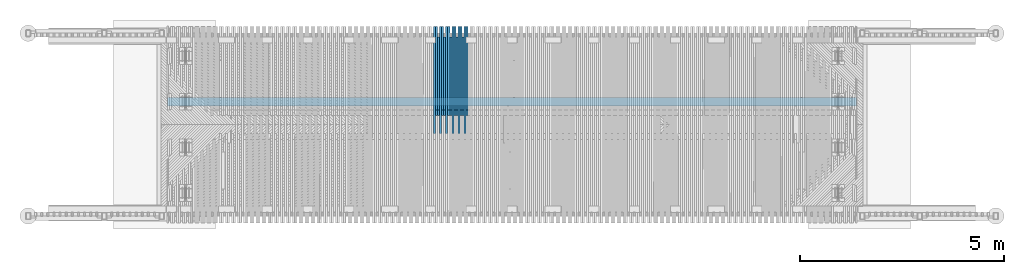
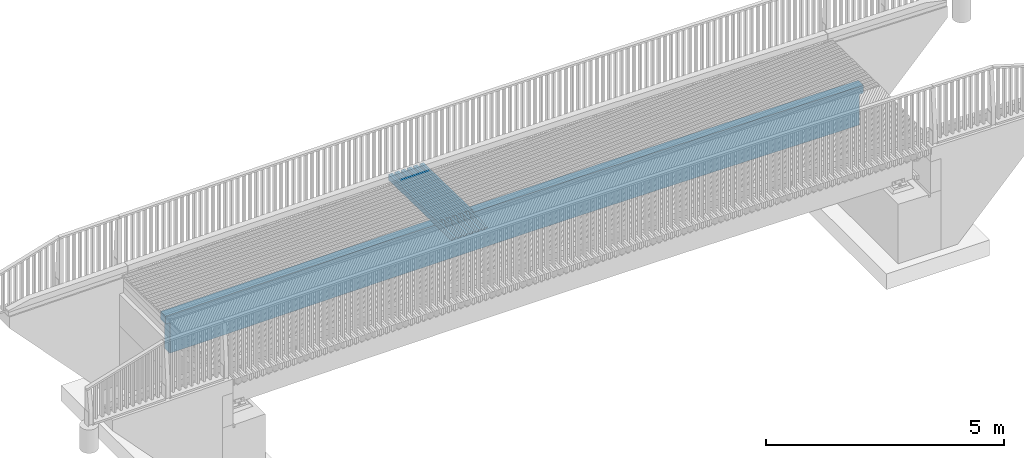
# One storey, part 27 of 47: 18 beams.
"""IFC2X3 building model written with IfcOpenShell, lengths in millimetres."""

from ifc_helpers import new_model, si_unit, frame, origin_with_axes, place, context, subcontext, project, spatial, faceted_brep, material, type_object, element, save


model = new_model("IFC2X3")

# Units and contexts
model_context = context("Model", 3, precision=1e-05, world=origin_with_axes())
body_context = subcontext(model_context, "Body", "Model", "MODEL_VIEW")
ifc_project = project(units=[si_unit("LENGTHUNIT", "METRE", prefix="MILLI"), si_unit("AREAUNIT", "SQUARE_METRE"), si_unit("VOLUMEUNIT", "CUBIC_METRE"), si_unit("MASSUNIT", "GRAM", prefix="KILO"), si_unit("TIMEUNIT", "SECOND"), si_unit("PLANEANGLEUNIT", "RADIAN"), si_unit("SOLIDANGLEUNIT", "STERADIAN"), si_unit("THERMODYNAMICTEMPERATUREUNIT", "DEGREE_CELSIUS"), si_unit("LUMINOUSINTENSITYUNIT", "LUMEN")], contexts=[model_context])

# Site, building, storey
site_placement = place(None, origin_with_axes())
site = spatial("IfcSite", under=ifc_project, at=site_placement, Name="Undefined", CompositionType="ELEMENT")
building_placement = place(site_placement, origin_with_axes())
building = spatial("IfcBuilding", under=site, at=building_placement, Name="Undefined", CompositionType="ELEMENT")
storey_placement = place(building_placement, origin_with_axes())
storey = spatial("IfcBuildingStorey", under=building, at=storey_placement, Name="Undefined", CompositionType="ELEMENT", Elevation=0.0)

# Beams
ifc_material = material(Name="TIMBER/Timber_Undefined")
beam_type_1 = type_object("IfcBeamType", Name="150*50", PredefinedType="NOTDEFINED")
beam_1_placement = place(storey_placement, frame((6149.62409713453, 64771.4438078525, 3085.1448730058), z_axis=(-0.0030706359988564, 0.01999600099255, 0.999795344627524), x_axis=(-6.14129999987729e-05, -0.999800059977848, 0.019995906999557)))
element("IfcBeam", 1, at=beam_1_placement, inside=storey, type_object=beam_type_1, material=ifc_material, Name="BEAM", ObjectType="150*50", context=body_context, shape_type="Brep", body=[
    faceted_brep([(6.18456397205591e-09, -24.9999999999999, -75.0000000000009), (-6.1918399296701e-09, -24.9999999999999, 74.9999999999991), (-6.19911588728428e-09, 25.0, 75.0), (6.18456397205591e-09, 24.9999999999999, -75.0), (2186.42645864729, 25.0, -75.0), (2186.42645915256, -25.0000000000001, -75.0), (2047.96936034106, -25.0000000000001, 75.0), (2047.96935975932, 25.0, 75.0)], [[[0, 1, 2, 3]], [[0, 3, 4, 5]], [[1, 0, 5, 6]], [[2, 1, 6, 7]], [[3, 2, 7, 4]], [[6, 5, 4, 7]]]),
])
beam_2_placement = place(storey_placement, frame((6099.58490971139, 64771.443807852, 3084.99030618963), z_axis=(-0.00323675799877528, 0.0199960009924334, 0.999794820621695), x_axis=(-6.47350000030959e-05, -0.999800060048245, 0.0199958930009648)))
element("IfcBeam", 2, at=beam_2_placement, inside=storey, type_object=beam_type_1, material=ifc_material, Name="BEAM", ObjectType="150*50", context=body_context, shape_type="Brep", body=[
    faceted_brep([(6.18456397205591e-09, -24.9999999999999, -75.0000000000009), (6.18456397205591e-09, 24.9999999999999, -75.0), (2633.00494983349, 25.0000000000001, -75.0000000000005), (2633.00495050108, -24.9999999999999, -75.0000000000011), (-6.1918399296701e-09, -24.9999999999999, 74.9999999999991), (-6.19911588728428e-09, 25.0, 75.0), (2408.42506497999, 24.9999999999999, 75.0), (2768.5924870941, 25.0, 60.5875375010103), (2768.59248707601, -25.0, 60.5875366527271), (2408.4250638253, -25.0, 74.9999999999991)], [[[0, 1, 2, 3]], [[0, 4, 5, 1]], [[2, 1, 5, 6, 7]], [[3, 2, 7, 8]], [[4, 0, 3, 8, 9]], [[5, 4, 9, 6]], [[8, 7, 6, 9]]]),
])
beam_3_placement = place(storey_placement, frame((6299.65220868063, 64771.4438078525, 3085.58735179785), z_axis=(-0.00282145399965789, 0.0199960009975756, 0.999796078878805), x_axis=(-5.64289999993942e-05, -0.999800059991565, 0.0199959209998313)))
element("IfcBeam", 3, at=beam_3_placement, inside=storey, type_object=beam_type_1, material=ifc_material, Name="BEAM", ObjectType="150*50", context=body_context, shape_type="Brep", body=[
    faceted_brep([(6.18456397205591e-09, -24.9999999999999, -75.0000000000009), (-6.1918399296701e-09, -24.9999999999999, 74.9999999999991), (-6.19911588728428e-09, 25.0, 75.0), (6.18456397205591e-09, 24.9999999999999, -75.0), (2186.42645864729, 25.0, -75.0), (2186.42645915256, -25.0000000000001, -75.0), (2047.96936034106, -25.0000000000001, 75.0), (2047.96935975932, 25.0, 75.0)], [[[0, 1, 2, 3]], [[0, 3, 4, 5]], [[1, 0, 5, 6]], [[2, 1, 6, 7]], [[3, 2, 7, 4]], [[6, 5, 4, 7]]]),
])
beam_4_placement = place(storey_placement, frame((6199.61803930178, 64513.4953923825, 3090.45546512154), z_axis=(-0.002987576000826, 0.019996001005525, 0.999795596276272), x_axis=(-5.97510000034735e-05, -0.999800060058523, 0.0199959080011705)))
element("IfcBeam", 4, at=beam_4_placement, inside=storey, type_object=beam_type_1, material=ifc_material, Name="BEAM", ObjectType="150*50", context=body_context, shape_type="Brep", body=[
    faceted_brep([(6.18456397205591e-09, -24.9999999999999, -75.0000000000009), (-6.1918399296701e-09, -24.9999999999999, 74.9999999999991), (-6.19911588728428e-09, 25.0, 75.0), (6.18456397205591e-09, 24.9999999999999, -75.0), (1928.42646506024, 25.0, -75.0), (1928.4264649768, -24.9999999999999, -75.0), (1789.96936577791, -24.9999999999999, 75.0), (1789.96936586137, 25.0, 75.0000000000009)], [[[0, 1, 2, 3]], [[0, 3, 4, 5]], [[1, 0, 5, 6]], [[2, 1, 6, 7]], [[3, 2, 7, 4]], [[6, 5, 4, 7]]]),
])
beam_5_placement = place(storey_placement, frame((6249.61298428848, 64771.443807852, 3085.445256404), z_axis=(-0.002987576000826, 0.019996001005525, 0.999795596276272), x_axis=(-5.97510000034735e-05, -0.999800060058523, 0.0199959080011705)))
element("IfcBeam", 5, at=beam_5_placement, inside=storey, type_object=beam_type_1, material=ifc_material, Name="BEAM", ObjectType="150*50", context=body_context, shape_type="Brep", body=[
    faceted_brep([(6.18456397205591e-09, -24.9999999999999, -75.0000000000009), (6.18456397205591e-09, 24.9999999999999, -75.0), (2633.00494983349, 25.0000000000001, -75.0000000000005), (2633.00495050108, -24.9999999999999, -75.0000000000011), (-6.1918399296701e-09, -24.9999999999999, 74.9999999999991), (-6.19911588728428e-09, 25.0, 75.0), (2408.42506497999, 24.9999999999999, 75.0), (2768.5924870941, 25.0, 60.5875375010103), (2768.59248707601, -25.0, 60.5875366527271), (2408.4250638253, -25.0, 74.9999999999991)], [[[0, 1, 2, 3]], [[0, 4, 5, 1]], [[2, 1, 5, 6, 7]], [[3, 2, 7, 8]], [[4, 0, 3, 8, 9]], [[5, 4, 9, 6]], [[8, 7, 6, 9]]]),
])
beam_6_placement = place(storey_placement, frame((6449.68042584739, 64771.4438078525, 3085.99243861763), z_axis=(-0.00257227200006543, 0.0199960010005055, 0.9997967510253), x_axis=(-5.14459999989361e-05, -0.999800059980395, 0.019995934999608)))
element("IfcBeam", 6, at=beam_6_placement, inside=storey, type_object=beam_type_1, material=ifc_material, Name="BEAM", ObjectType="150*50", context=body_context, shape_type="Brep", body=[
    faceted_brep([(6.18456397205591e-09, -24.9999999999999, -75.0000000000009), (-6.1918399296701e-09, -24.9999999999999, 74.9999999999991), (-6.19911588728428e-09, 25.0, 75.0), (6.18456397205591e-09, 24.9999999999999, -75.0), (2186.42645864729, 25.0, -75.0), (2186.42645915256, -25.0000000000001, -75.0), (2047.96936034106, -25.0000000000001, 75.0), (2047.96935975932, 25.0, 75.0)], [[[0, 1, 2, 3]], [[0, 3, 4, 5]], [[1, 0, 5, 6]], [[2, 1, 6, 7]], [[3, 2, 7, 4]], [[6, 5, 4, 7]]]),
])
beam_7_placement = place(storey_placement, frame((6349.64747287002, 64513.4953923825, 3090.88548360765), z_axis=(-0.0027383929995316, 0.0199960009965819, 0.99979630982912), x_axis=(-5.47680000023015e-05, -0.999800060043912, 0.0199959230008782)))
element("IfcBeam", 7, at=beam_7_placement, inside=storey, type_object=beam_type_1, material=ifc_material, Name="BEAM", ObjectType="150*50", context=body_context, shape_type="Brep", body=[
    faceted_brep([(6.18456397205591e-09, -24.9999999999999, -75.0000000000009), (-6.1918399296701e-09, -24.9999999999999, 74.9999999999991), (-6.19911588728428e-09, 25.0, 75.0), (6.18456397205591e-09, 24.9999999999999, -75.0), (1928.42646506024, 25.0, -75.0), (1928.4264649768, -24.9999999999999, -75.0), (1789.96936577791, -24.9999999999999, 75.0), (1789.96936586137, 25.0, 75.0000000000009)], [[[0, 1, 2, 3]], [[0, 3, 4, 5]], [[1, 0, 5, 6]], [[2, 1, 6, 7]], [[3, 2, 7, 4]], [[6, 5, 4, 7]]]),
])
beam_8_placement = place(storey_placement, frame((6399.64116759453, 64771.443807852, 3085.86281465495), z_axis=(-0.0027383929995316, 0.0199960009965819, 0.99979630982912), x_axis=(-5.47680000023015e-05, -0.999800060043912, 0.0199959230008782)))
element("IfcBeam", 8, at=beam_8_placement, inside=storey, type_object=beam_type_1, material=ifc_material, Name="BEAM", ObjectType="150*50", context=body_context, shape_type="Brep", body=[
    faceted_brep([(6.18456397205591e-09, -24.9999999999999, -75.0000000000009), (6.18456397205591e-09, 24.9999999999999, -75.0), (2633.00494983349, 25.0000000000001, -75.0000000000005), (2633.00495050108, -24.9999999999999, -75.0000000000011), (-6.1918399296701e-09, -24.9999999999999, 74.9999999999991), (-6.19911588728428e-09, 25.0, 75.0), (2408.42506497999, 24.9999999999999, 75.0), (2768.5924870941, 25.0, 60.5875375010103), (2768.59248707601, -25.0, 60.5875366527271), (2408.4250638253, -25.0, 74.9999999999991)], [[[0, 1, 2, 3]], [[0, 4, 5, 1]], [[2, 1, 5, 6, 7]], [[3, 2, 7, 8]], [[4, 0, 3, 8, 9]], [[5, 4, 9, 6]], [[8, 7, 6, 9]]]),
])
beam_9_placement = place(storey_placement, frame((6599.70873931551, 64771.4438078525, 3086.36013343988), z_axis=(-0.00232309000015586, 0.0199960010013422, 0.999797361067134), x_axis=(-4.64619999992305e-05, -0.999800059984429, 0.0199959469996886)))
element("IfcBeam", 9, at=beam_9_placement, inside=storey, type_object=beam_type_1, material=ifc_material, Name="BEAM", ObjectType="150*50", context=body_context, shape_type="Brep", body=[
    faceted_brep([(6.18456397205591e-09, -24.9999999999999, -75.0000000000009), (-6.1918399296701e-09, -24.9999999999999, 74.9999999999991), (-6.19911588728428e-09, 25.0, 75.0), (6.18456397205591e-09, 24.9999999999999, -75.0), (2186.42645864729, 25.0, -75.0), (2186.42645915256, -25.0000000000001, -75.0), (2047.96936034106, -25.0000000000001, 75.0), (2047.96935975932, 25.0, 75.0)], [[[0, 1, 2, 3]], [[0, 3, 4, 5]], [[1, 0, 5, 6]], [[2, 1, 6, 7]], [[3, 2, 7, 4]], [[6, 5, 4, 7]]]),
])
beam_10_placement = place(storey_placement, frame((6499.67700895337, 64513.4953923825, 3091.2781097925), z_axis=(-0.00248921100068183, 0.0199960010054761, 0.999796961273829), x_axis=(-4.97840000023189e-05, -0.999800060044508, 0.0199959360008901)))
element("IfcBeam", 10, at=beam_10_placement, inside=storey, type_object=beam_type_1, material=ifc_material, Name="BEAM", ObjectType="150*50", context=body_context, shape_type="Brep", body=[
    faceted_brep([(6.18456397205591e-09, -24.9999999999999, -75.0000000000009), (-6.1918399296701e-09, -24.9999999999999, 74.9999999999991), (-6.19911588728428e-09, 25.0, 75.0), (6.18456397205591e-09, 24.9999999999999, -75.0), (1928.42646506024, 25.0, -75.0), (1928.4264649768, -24.9999999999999, -75.0), (1789.96936577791, -24.9999999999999, 75.0), (1789.96936586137, 25.0, 75.0000000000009)], [[[0, 1, 2, 3]], [[0, 3, 4, 5]], [[1, 0, 5, 6]], [[2, 1, 6, 7]], [[3, 2, 7, 4]], [[6, 5, 4, 7]]]),
])
beam_11_placement = place(storey_placement, frame((6549.66945031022, 64771.443807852, 3086.2429809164), z_axis=(-0.00248921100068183, 0.0199960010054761, 0.999796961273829), x_axis=(-4.97840000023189e-05, -0.999800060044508, 0.0199959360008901)))
element("IfcBeam", 11, at=beam_11_placement, inside=storey, type_object=beam_type_1, material=ifc_material, Name="BEAM", ObjectType="150*50", context=body_context, shape_type="Brep", body=[
    faceted_brep([(6.18456397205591e-09, -24.9999999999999, -75.0000000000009), (6.18456397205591e-09, 24.9999999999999, -75.0), (2633.00494983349, 25.0000000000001, -75.0000000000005), (2633.00495050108, -24.9999999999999, -75.0000000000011), (-6.1918399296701e-09, -24.9999999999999, 74.9999999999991), (-6.19911588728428e-09, 25.0, 75.0), (2408.42506497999, 24.9999999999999, 75.0), (2768.5924870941, 25.0, 60.5875375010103), (2768.59248707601, -25.0, 60.5875366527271), (2408.4250638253, -25.0, 74.9999999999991)], [[[0, 1, 2, 3]], [[0, 4, 5, 1]], [[2, 1, 5, 6, 7]], [[3, 2, 7, 8]], [[4, 0, 3, 8, 9]], [[5, 4, 9, 6]], [[8, 7, 6, 9]]]),
])
beam_12_placement = place(storey_placement, frame((6749.73713976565, 64771.4438078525, 3086.69043624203), z_axis=(-0.00207390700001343, 0.0199960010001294, 0.999797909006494), x_axis=(-4.1477999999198e-05, -0.99980005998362, 0.0199959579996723)))
element("IfcBeam", 12, at=beam_12_placement, inside=storey, type_object=beam_type_1, material=ifc_material, Name="BEAM", ObjectType="150*50", context=body_context, shape_type="Brep", body=[
    faceted_brep([(6.18456397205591e-09, -24.9999999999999, -75.0000000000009), (-6.1918399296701e-09, -24.9999999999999, 74.9999999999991), (-6.19911588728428e-09, 25.0, 75.0), (6.18456397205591e-09, 24.9999999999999, -75.0), (2186.42645864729, 25.0, -75.0), (2186.42645915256, -25.0000000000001, -75.0), (2047.96936034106, -25.0000000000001, 75.0), (2047.96935975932, 25.0, 75.0)], [[[0, 1, 2, 3]], [[0, 3, 4, 5]], [[1, 0, 5, 6]], [[2, 1, 6, 7]], [[3, 2, 7, 4]], [[6, 5, 4, 7]]]),
])
beam_13_placement = place(storey_placement, frame((6649.70663823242, 64513.4953923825, 3091.63334365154), z_axis=(-0.00224002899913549, 0.019996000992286, 0.999797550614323), x_axis=(-4.48000000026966e-05, -0.999800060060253, 0.019995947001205)))
element("IfcBeam", 13, at=beam_13_placement, inside=storey, type_object=beam_type_1, material=ifc_material, Name="BEAM", ObjectType="150*50", context=body_context, shape_type="Brep", body=[
    faceted_brep([(6.18456397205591e-09, -24.9999999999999, -75.0000000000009), (-6.1918399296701e-09, -24.9999999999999, 74.9999999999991), (-6.19911588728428e-09, 25.0, 75.0), (6.18456397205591e-09, 24.9999999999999, -75.0), (1928.42646506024, 25.0, -75.0), (1928.4264649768, -24.9999999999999, -75.0), (1789.96936577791, -24.9999999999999, 75.0), (1789.96936586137, 25.0, 75.0000000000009)], [[[0, 1, 2, 3]], [[0, 3, 4, 5]], [[1, 0, 5, 6]], [[2, 1, 6, 7]], [[3, 2, 7, 4]], [[6, 5, 4, 7]]]),
])
beam_14_placement = place(storey_placement, frame((6699.69782311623, 64771.443807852, 3086.58575516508), z_axis=(-0.00224002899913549, 0.019996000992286, 0.999797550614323), x_axis=(-4.48000000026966e-05, -0.999800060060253, 0.019995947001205)))
element("IfcBeam", 14, at=beam_14_placement, inside=storey, type_object=beam_type_1, material=ifc_material, Name="BEAM", ObjectType="150*50", context=body_context, shape_type="Brep", body=[
    faceted_brep([(6.18456397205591e-09, -24.9999999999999, -75.0000000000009), (6.18456397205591e-09, 24.9999999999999, -75.0), (2633.00494983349, 25.0000000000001, -75.0000000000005), (2633.00495050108, -24.9999999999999, -75.0000000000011), (-6.1918399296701e-09, -24.9999999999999, 74.9999999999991), (-6.19911588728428e-09, 25.0, 75.0), (2408.42506497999, 24.9999999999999, 75.0), (2768.5924870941, 25.0, 60.5875375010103), (2768.59248707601, -25.0, 60.5875366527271), (2408.4250638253, -25.0, 74.9999999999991)], [[[0, 1, 2, 3]], [[0, 4, 5, 1]], [[2, 1, 5, 6, 7]], [[3, 2, 7, 8]], [[4, 0, 3, 8, 9]], [[5, 4, 9, 6]], [[8, 7, 6, 9]]]),
])
beam_15_placement = place(storey_placement, frame((6899.76561787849, 64771.4438078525, 3086.98334700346), z_axis=(-0.00182472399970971, 0.0199960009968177, 0.99979839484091), x_axis=(-3.64949999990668e-05, -0.999800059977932, 0.0199959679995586)))
element("IfcBeam", 15, at=beam_15_placement, inside=storey, type_object=beam_type_1, material=ifc_material, Name="BEAM", ObjectType="150*50", context=body_context, shape_type="Brep", body=[
    faceted_brep([(6.18456397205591e-09, -24.9999999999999, -75.0000000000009), (-6.1918399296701e-09, -24.9999999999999, 74.9999999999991), (-6.19911588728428e-09, 25.0, 75.0), (6.18456397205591e-09, 24.9999999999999, -75.0), (2186.42645864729, 25.0, -75.0), (2186.42645915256, -25.0000000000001, -75.0), (2047.96936034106, -25.0000000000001, 75.0), (2047.96935975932, 25.0, 75.0)], [[[0, 1, 2, 3]], [[0, 3, 4, 5]], [[1, 0, 5, 6]], [[2, 1, 6, 7]], [[3, 2, 7, 4]], [[6, 5, 4, 7]]]),
])
beam_16_placement = place(storey_placement, frame((6799.73635138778, 64513.4953923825, 3091.95118516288), z_axis=(-0.00199084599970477, 0.0199960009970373, 0.999798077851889), x_axis=(-3.98170000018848e-05, -0.999800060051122, 0.0199959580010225)))
element("IfcBeam", 16, at=beam_16_placement, inside=storey, type_object=beam_type_1, material=ifc_material, Name="BEAM", ObjectType="150*50", context=body_context, shape_type="Brep", body=[
    faceted_brep([(6.18456397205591e-09, -24.9999999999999, -75.0000000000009), (-6.1918399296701e-09, -24.9999999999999, 74.9999999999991), (-6.19911588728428e-09, 25.0, 75.0), (6.18456397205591e-09, 24.9999999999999, -75.0), (1928.42646506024, 25.0, -75.0), (1928.4264649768, -24.9999999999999, -75.0), (1789.96936577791, -24.9999999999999, 75.0), (1789.96936586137, 25.0, 75.0000000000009)], [[[0, 1, 2, 3]], [[0, 3, 4, 5]], [[1, 0, 5, 6]], [[2, 1, 6, 7]], [[3, 2, 7, 4]], [[6, 5, 4, 7]]]),
])
beam_17_placement = place(storey_placement, frame((6849.72627669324, 64771.443807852, 3086.89113737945), z_axis=(-0.00199084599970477, 0.0199960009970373, 0.999798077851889), x_axis=(-3.98170000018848e-05, -0.999800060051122, 0.0199959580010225)))
element("IfcBeam", 17, at=beam_17_placement, inside=storey, type_object=beam_type_1, material=ifc_material, Name="BEAM", ObjectType="150*50", context=body_context, shape_type="Brep", body=[
    faceted_brep([(6.18456397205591e-09, -24.9999999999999, -75.0000000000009), (6.18456397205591e-09, 24.9999999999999, -75.0), (2633.00494983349, 25.0000000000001, -75.0000000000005), (2633.00495050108, -24.9999999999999, -75.0000000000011), (-6.1918399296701e-09, -24.9999999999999, 74.9999999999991), (-6.19911588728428e-09, 25.0, 75.0), (2408.42506497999, 24.9999999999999, 75.0), (2768.5924870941, 25.0, 60.5875375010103), (2768.59248707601, -25.0, 60.5875366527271), (2408.4250638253, -25.0, 74.9999999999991)], [[[0, 1, 2, 3]], [[0, 4, 5, 1]], [[2, 1, 5, 6, 7]], [[3, 2, 7, 8]], [[4, 0, 3, 8, 9]], [[5, 4, 9, 6]], [[8, 7, 6, 9]]]),
])
beam_type_2 = type_object("IfcBeamType", Name="990*215", PredefinedType="NOTDEFINED")
beam_18_placement = place(storey_placement, frame((243.613169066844, 62925.0, 2502.11879463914), z_axis=(0.0, 0.0, 1.0), x_axis=(1.0, 0.0, 0.0)))
element("IfcBeam", 18, at=beam_18_placement, inside=storey, type_object=beam_type_2, material=ifc_material, Name="PALKKI", ObjectType="990*215", context=body_context, shape_type="Brep", body=[
    faceted_brep([(16106.3868309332, 107.5, -494.790894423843), (16106.3868309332, -107.5, -494.790894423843), (16080.5342107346, -107.5, -494.790894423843), (15793.4597682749, -107.5, -494.790894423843), (15506.3868309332, -107.5, -494.958794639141), (15506.3868309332, 107.5, -494.958794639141), (15793.4597682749, 107.5, -494.790894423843), (16080.5342107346, 107.5, -494.790894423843), (16106.3868309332, 107.499999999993, 285.209105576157), (16106.3868309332, -107.5, 285.209105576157), (16206.3868309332, 107.499999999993, 285.209105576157), (16206.3868309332, -107.5, 285.209105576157), (16206.3868309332, 107.5, 485.682039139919), (16206.3868309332, -107.5, 485.682039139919), (-627.370013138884, 107.5, 486.625216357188), (-627.370013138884, -107.5, 486.625216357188), (-316.879497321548, -107.5, 490.87213125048), (-316.879497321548, 107.5, 490.87213125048), (-693.613169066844, -107.5, 485.684940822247), (-693.613169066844, -107.5, 285.209105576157), (-624.563039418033, -107.5, 285.209105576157), (-693.613169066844, 107.5, 485.684940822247), (-693.613169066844, 107.499999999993, 285.209105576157), (-624.563039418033, 107.5, 285.209105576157), (-593.613169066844, 107.500000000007, 285.209105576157), (-593.613169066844, -107.5, 285.209105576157), (-593.613169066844, 107.499999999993, -494.790894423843), (-593.613169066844, -107.5, -494.790894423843), (-303.651924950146, -107.5, -494.790894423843), (-6.38683093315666, -107.5, 494.958794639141), (6.38683093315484, -107.5, -494.958794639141), (-6.38683093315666, 107.5, 494.958794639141), (6.38683093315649, 107.5, -494.790894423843), (304.107903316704, 107.5, 498.885205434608), (316.370645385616, 107.5, -491.038844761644), (-303.651924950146, 107.5, -494.790894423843), (316.370645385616, -107.5, -491.038844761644), (304.107903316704, -107.5, 498.885205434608), (614.604622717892, -107.5, 502.651362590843), (614.604622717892, 107.5, 502.651362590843), (626.356441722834, 107.5, -487.278884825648), (626.356441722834, -107.5, -487.278884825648), (936.344137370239, -107.5, -483.678915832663), (925.103244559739, -107.5, 506.257265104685), (925.103244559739, 107.5, 506.257265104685), (936.344137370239, 107.5, -483.678915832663), (1246.33364975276, 107.5, -480.238938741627), (1246.33364975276, -107.5, -480.238938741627), (1235.60368613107, -107.5, 509.702912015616), (1235.60368613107, 107.5, 509.702912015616), (1546.10586472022, 107.5, 512.988302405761), (1556.32489629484, 107.5, -476.958954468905), (1556.32489629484, -107.5, -476.958954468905), (1546.10586472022, -107.5, 512.988302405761), (1856.60969761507, -107.5, 516.113435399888), (1856.60969761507, 107.5, 516.113435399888), (1866.31779442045, 107.5, -473.838963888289), (1866.31779442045, -107.5, -473.838963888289), (2176.31226155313, -107.5, -470.878967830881), (2167.11510210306, -107.5, 519.078310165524), (2167.11510210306, 107.5, 519.078310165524), (2176.31226155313, 107.5, -470.878967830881), (2486.30821511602, 107.5, -468.078967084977), (2486.30821511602, -107.5, -468.078967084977), (2477.6219954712, -107.5, 521.882925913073), (2477.6219954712, 107.5, 521.882925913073), (2788.13029500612, 107.5, 524.527281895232), (2796.30557253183, 107.5, -465.438962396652), (2796.30557253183, -107.5, -465.438962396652), (2788.13029500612, -107.5, 524.527281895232), (3098.63991799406, -107.5, 527.011377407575), (3098.63991799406, 107.5, 527.011377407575), (3106.30425122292, 107.5, -462.958954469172), (3106.30425122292, -107.5, -462.958954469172), (3416.30416861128, -107.5, -460.638943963), (3409.15078172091, -107.5, 529.335211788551), (3409.15078172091, 107.5, 529.335211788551), (3416.30416861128, 107.5, -460.638943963), (3726.30524211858, 107.5, -458.478931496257), (3726.30524211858, -107.5, -458.478931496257), (3719.66280347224, -107.5, 531.49878441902), (3719.66280347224, 107.5, 531.49878441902), (4030.1759005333, 107.5, 533.502094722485), (4036.3073891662, 107.5, -456.478917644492), (4036.3073891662, -107.5, -456.478917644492), (4030.1759005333, -107.5, 533.502094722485), (4340.68999018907, -107.5, 535.345142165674), (4340.68999018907, 107.5, 535.345142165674), (4346.3105271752, 107.5, -454.638902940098), (4346.3105271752, -107.5, -454.638902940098), (4656.31457356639, -107.5, -452.958887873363), (4651.20498972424, -107.5, 537.027926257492), (4651.20498972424, 107.5, 537.027926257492), (4656.31457356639, 107.5, -452.958887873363), (4966.31944576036, 107.5, -451.438872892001), (4966.31944576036, -107.5, -451.438872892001), (4961.72081642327, -107.5, 538.550446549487), (4961.72081642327, 107.5, 538.550446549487), (5272.23738757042, 107.5, 539.912702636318), (5276.32506117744, 107.5, -450.078858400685), (5276.32506117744, -107.5, -450.078858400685), (5272.23738757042, -107.5, 539.912702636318), (5582.75462044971, -107.5, 541.114694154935), (5582.75462044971, 107.5, 541.114694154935), (5586.33133723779, 107.5, -448.878844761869), (5586.33133723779, -107.5, -448.878844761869), (5896.33819136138, -107.5, -447.838832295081), (5893.27243234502, -107.5, 542.156420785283), (5893.27243234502, 107.5, 542.156420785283), (5896.33819136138, 107.5, -447.838832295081), (6206.34554096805, 107.5, -446.958821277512), (6206.34554096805, -107.5, -446.958821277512), (6203.79074054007, -107.5, 543.037882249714), (6203.79074054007, 107.5, 543.037882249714), (6514.30946231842, 107.5, 543.759078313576), (6516.35330347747, 107.5, -446.238811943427), (6516.35330347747, -107.5, -446.238811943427), (6514.30946231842, -107.5, 543.759078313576), (6824.82851496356, -107.5, 544.320008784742), (6824.82851496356, 107.5, 544.320008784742), (6826.36139630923, 107.5, -445.678804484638), (6826.36139630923, -107.5, -445.678804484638), (7136.36973688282, -107.5, -445.278799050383), (7135.34781575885, -107.5, 544.720673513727), (7135.34781575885, 107.5, 544.720673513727), (7136.36973688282, 107.5, -445.278799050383), (7446.37824261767, 107.5, -445.038795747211), (7446.37824261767, -107.5, -445.038795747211), (7445.86728198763, -107.5, 544.961072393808), (7445.86728198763, 107.5, 544.961072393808), (7756.38683093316, 107.5, 545.041205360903), (7756.38683093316, 107.5, -444.958794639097), (7756.38683093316, -107.5, -444.958794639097), (7756.38683093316, -107.5, 545.041205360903), (8066.90637987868, -107.5, 544.961072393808), (8066.90637987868, 107.5, 544.961072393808), (8066.39541924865, 107.5, -445.038795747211), (8066.39541924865, -107.5, -445.038795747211), (8376.40392498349, -107.5, -445.278799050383), (8377.42584610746, -107.5, 544.720673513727), (8377.42584610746, 107.5, 544.720673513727), (8376.40392498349, 107.5, -445.278799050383), (8686.41226555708, 107.5, -445.678804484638), (8686.41226555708, -107.5, -445.678804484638), (8687.94514690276, -107.5, 544.320008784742), (8687.94514690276, 107.5, 544.320008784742), (8998.46419954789, 107.5, 543.759078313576), (8996.42035838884, 107.5, -446.238811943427), (8996.42035838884, -107.5, -446.238811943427), (8998.46419954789, -107.5, 543.759078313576), (9308.98292132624, -107.5, 543.037882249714), (9308.98292132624, 107.5, 543.037882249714), (9306.42812089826, 107.5, -446.958821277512), (9306.42812089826, -107.5, -446.958821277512), (9616.43547050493, -107.5, -447.838832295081), (9619.50122952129, -107.5, 542.156420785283), (9619.50122952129, 107.5, 542.156420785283), (9616.43547050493, 107.5, -447.838832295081), (9926.44232462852, 107.5, -448.878844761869), (9926.44232462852, -107.5, -448.878844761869), (9930.0190414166, -107.5, 541.114694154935), (9930.0190414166, 107.5, 541.114694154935), (10240.5362742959, 107.5, 539.912702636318), (10236.4486006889, 107.5, -450.078858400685), (10236.4486006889, -107.5, -450.078858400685), (10240.5362742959, -107.5, 539.912702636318), (10551.052845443, -107.5, 538.550446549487), (10551.052845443, 107.5, 538.550446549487), (10546.454216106, 107.5, -451.438872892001), (10546.454216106, -107.5, -451.438872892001), (10856.4590882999, -107.5, -452.958887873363), (10861.5686721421, -107.5, 537.027926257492), (10861.5686721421, 107.5, 537.027926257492), (10856.4590882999, 107.5, -452.958887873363), (11166.4631346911, 107.5, -454.638902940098), (11166.4631346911, -107.5, -454.638902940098), (11172.0836716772, -107.5, 535.345142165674), (11172.0836716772, 107.5, 535.345142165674), (11482.597761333, 107.5, 533.502094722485), (11476.4662727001, 107.5, -456.478917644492), (11476.4662727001, -107.5, -456.478917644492), (11482.597761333, -107.5, 533.502094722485), (11793.1108583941, -107.5, 531.49878441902), (11793.1108583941, 107.5, 531.49878441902), (11786.4684197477, 107.5, -458.478931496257), (11786.4684197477, -107.5, -458.478931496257), (12096.469493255, -107.5, -460.638943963), (12103.6228801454, -107.5, 529.335211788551), (12103.6228801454, 107.5, 529.335211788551), (12096.469493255, 107.5, -460.638943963), (12406.4694106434, 107.5, -462.958954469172), (12406.4694106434, -107.5, -462.958954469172), (12414.1337438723, -107.5, 527.011377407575), (12414.1337438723, 107.5, 527.011377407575), (12724.6433668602, 107.5, 524.527281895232), (12716.4680893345, 107.5, -465.438962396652), (12716.4680893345, -107.5, -465.438962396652), (12724.6433668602, -107.5, 524.527281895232), (13035.1516663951, -107.5, 521.882925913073), (13035.1516663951, 107.5, 521.882925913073), (13026.4654467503, 107.5, -468.078967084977), (13026.4654467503, -107.5, -468.078967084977), (13336.4614003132, -107.5, -470.878967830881), (13345.6585597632, -107.5, 519.078310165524), (13345.6585597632, 107.5, 519.078310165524), (13336.4614003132, 107.5, -470.878967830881), (13646.4558674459, 107.5, -473.838963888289), (13646.4558674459, -107.5, -473.838963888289), (13656.1639642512, -107.5, 516.113435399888), (13656.1639642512, 107.5, 516.113435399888), (13966.6677971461, 107.5, 512.988302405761), (13956.4487655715, 107.5, -476.958954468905), (13956.4487655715, -107.5, -476.958954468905), (13966.6677971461, -107.5, 512.988302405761), (14277.1699757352, -107.5, 509.702912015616), (14277.1699757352, 107.5, 509.702912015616), (14266.4400121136, 107.5, -480.238938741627), (14266.4400121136, -107.5, -480.238938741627), (14576.4295244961, -107.5, -483.678915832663), (14587.6704173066, -107.5, 506.257265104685), (14587.6704173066, 107.5, 506.257265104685), (14576.4295244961, 107.5, -483.678915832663), (14886.4172201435, 107.5, -487.278884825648), (14886.4172201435, -107.5, -487.278884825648), (14898.1690391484, -107.5, 502.651362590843), (14898.1690391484, 107.5, 502.651362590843), (15208.6657585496, 107.5, 498.885205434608), (15196.4030164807, 107.5, -491.038844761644), (15196.4030164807, -107.5, -491.038844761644), (15208.6657585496, -107.5, 498.885205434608), (15519.1604927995, -107.5, 494.958794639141), (15519.1604927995, 107.5, 494.958794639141), (15806.6537751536, -107.5, 491.180342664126), (15806.6537751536, 107.5, 491.180342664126), (16094.1452189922, -107.5, 487.264500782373), (16094.1452189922, 107.5, 487.264500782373)], [[[0, 1, 2, 3, 4, 5, 6, 7]], [[8, 9, 1, 0]], [[10, 11, 9, 8]], [[12, 13, 11, 10]], [[14, 15, 16, 17]], [[15, 18, 19, 20]], [[21, 22, 19, 18]], [[15, 14, 21, 18]], [[21, 14, 23, 22]], [[24, 25, 20, 19, 22, 23]], [[26, 27, 25, 24]], [[16, 15, 20, 25, 27, 28]], [[29, 16, 28, 30]], [[17, 16, 29, 31]], [[32, 31, 33, 34]], [[17, 31, 32, 35]], [[24, 23, 14, 17, 35, 26]], [[32, 30, 28, 27, 26, 35]], [[34, 36, 30, 32]], [[29, 30, 36, 37]], [[31, 29, 37, 33]], [[33, 37, 38, 39]], [[34, 33, 39, 40]], [[36, 34, 40, 41]], [[37, 36, 41, 38]], [[38, 41, 42, 43]], [[39, 38, 43, 44]], [[40, 39, 44, 45]], [[41, 40, 45, 42]], [[42, 45, 46, 47]], [[43, 42, 47, 48]], [[44, 43, 48, 49]], [[45, 44, 49, 46]], [[46, 49, 50, 51]], [[47, 46, 51, 52]], [[48, 47, 52, 53]], [[49, 48, 53, 50]], [[50, 53, 54, 55]], [[51, 50, 55, 56]], [[52, 51, 56, 57]], [[53, 52, 57, 54]], [[54, 57, 58, 59]], [[55, 54, 59, 60]], [[56, 55, 60, 61]], [[57, 56, 61, 58]], [[58, 61, 62, 63]], [[59, 58, 63, 64]], [[60, 59, 64, 65]], [[61, 60, 65, 62]], [[62, 65, 66, 67]], [[63, 62, 67, 68]], [[64, 63, 68, 69]], [[65, 64, 69, 66]], [[66, 69, 70, 71]], [[67, 66, 71, 72]], [[68, 67, 72, 73]], [[69, 68, 73, 70]], [[70, 73, 74, 75]], [[71, 70, 75, 76]], [[72, 71, 76, 77]], [[73, 72, 77, 74]], [[74, 77, 78, 79]], [[75, 74, 79, 80]], [[76, 75, 80, 81]], [[77, 76, 81, 78]], [[78, 81, 82, 83]], [[79, 78, 83, 84]], [[80, 79, 84, 85]], [[81, 80, 85, 82]], [[82, 85, 86, 87]], [[83, 82, 87, 88]], [[84, 83, 88, 89]], [[85, 84, 89, 86]], [[86, 89, 90, 91]], [[87, 86, 91, 92]], [[88, 87, 92, 93]], [[89, 88, 93, 90]], [[90, 93, 94, 95]], [[91, 90, 95, 96]], [[92, 91, 96, 97]], [[93, 92, 97, 94]], [[94, 97, 98, 99]], [[95, 94, 99, 100]], [[96, 95, 100, 101]], [[97, 96, 101, 98]], [[98, 101, 102, 103]], [[99, 98, 103, 104]], [[100, 99, 104, 105]], [[101, 100, 105, 102]], [[102, 105, 106, 107]], [[103, 102, 107, 108]], [[104, 103, 108, 109]], [[105, 104, 109, 106]], [[106, 109, 110, 111]], [[107, 106, 111, 112]], [[108, 107, 112, 113]], [[109, 108, 113, 110]], [[110, 113, 114, 115]], [[111, 110, 115, 116]], [[112, 111, 116, 117]], [[113, 112, 117, 114]], [[114, 117, 118, 119]], [[115, 114, 119, 120]], [[116, 115, 120, 121]], [[117, 116, 121, 118]], [[118, 121, 122, 123]], [[119, 118, 123, 124]], [[120, 119, 124, 125]], [[121, 120, 125, 122]], [[122, 125, 126, 127]], [[123, 122, 127, 128]], [[124, 123, 128, 129]], [[125, 124, 129, 126]], [[126, 129, 130, 131]], [[127, 126, 131, 132]], [[128, 127, 132, 133]], [[129, 128, 133, 130]], [[130, 133, 134, 135]], [[131, 130, 135, 136]], [[132, 131, 136, 137]], [[133, 132, 137, 134]], [[134, 137, 138, 139]], [[135, 134, 139, 140]], [[136, 135, 140, 141]], [[137, 136, 141, 138]], [[138, 141, 142, 143]], [[139, 138, 143, 144]], [[140, 139, 144, 145]], [[141, 140, 145, 142]], [[142, 145, 146, 147]], [[143, 142, 147, 148]], [[144, 143, 148, 149]], [[145, 144, 149, 146]], [[146, 149, 150, 151]], [[147, 146, 151, 152]], [[148, 147, 152, 153]], [[149, 148, 153, 150]], [[150, 153, 154, 155]], [[151, 150, 155, 156]], [[152, 151, 156, 157]], [[153, 152, 157, 154]], [[154, 157, 158, 159]], [[155, 154, 159, 160]], [[156, 155, 160, 161]], [[157, 156, 161, 158]], [[158, 161, 162, 163]], [[159, 158, 163, 164]], [[160, 159, 164, 165]], [[161, 160, 165, 162]], [[162, 165, 166, 167]], [[163, 162, 167, 168]], [[164, 163, 168, 169]], [[165, 164, 169, 166]], [[166, 169, 170, 171]], [[167, 166, 171, 172]], [[168, 167, 172, 173]], [[169, 168, 173, 170]], [[170, 173, 174, 175]], [[171, 170, 175, 176]], [[172, 171, 176, 177]], [[173, 172, 177, 174]], [[174, 177, 178, 179]], [[175, 174, 179, 180]], [[176, 175, 180, 181]], [[177, 176, 181, 178]], [[178, 181, 182, 183]], [[179, 178, 183, 184]], [[180, 179, 184, 185]], [[181, 180, 185, 182]], [[182, 185, 186, 187]], [[183, 182, 187, 188]], [[184, 183, 188, 189]], [[185, 184, 189, 186]], [[186, 189, 190, 191]], [[187, 186, 191, 192]], [[188, 187, 192, 193]], [[189, 188, 193, 190]], [[190, 193, 194, 195]], [[191, 190, 195, 196]], [[192, 191, 196, 197]], [[193, 192, 197, 194]], [[194, 197, 198, 199]], [[195, 194, 199, 200]], [[196, 195, 200, 201]], [[197, 196, 201, 198]], [[198, 201, 202, 203]], [[199, 198, 203, 204]], [[200, 199, 204, 205]], [[201, 200, 205, 202]], [[202, 205, 206, 207]], [[203, 202, 207, 208]], [[204, 203, 208, 209]], [[205, 204, 209, 206]], [[206, 209, 210, 211]], [[207, 206, 211, 212]], [[208, 207, 212, 213]], [[209, 208, 213, 210]], [[210, 213, 214, 215]], [[211, 210, 215, 216]], [[212, 211, 216, 217]], [[213, 212, 217, 214]], [[214, 217, 218, 219]], [[215, 214, 219, 220]], [[216, 215, 220, 221]], [[217, 216, 221, 218]], [[218, 221, 222, 223]], [[219, 218, 223, 224]], [[220, 219, 224, 225]], [[221, 220, 225, 222]], [[222, 225, 226, 227]], [[223, 222, 227, 228]], [[224, 223, 228, 229]], [[225, 224, 229, 226]], [[226, 229, 230, 231]], [[231, 230, 232, 233]], [[233, 232, 234, 235]], [[8, 0, 7, 235, 12, 10]], [[233, 235, 7, 6]], [[231, 233, 6, 5]], [[227, 226, 231, 5]], [[228, 227, 5, 4]], [[229, 228, 4, 230]], [[232, 230, 4, 3]], [[234, 232, 3, 2]], [[234, 2, 1, 9, 11, 13]], [[235, 234, 13, 12]]]),
])

save(model, "model.ifc")
